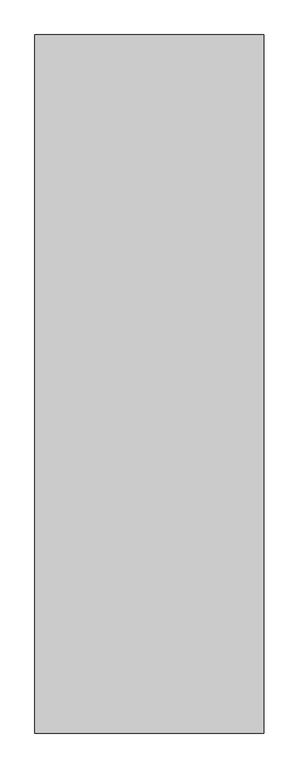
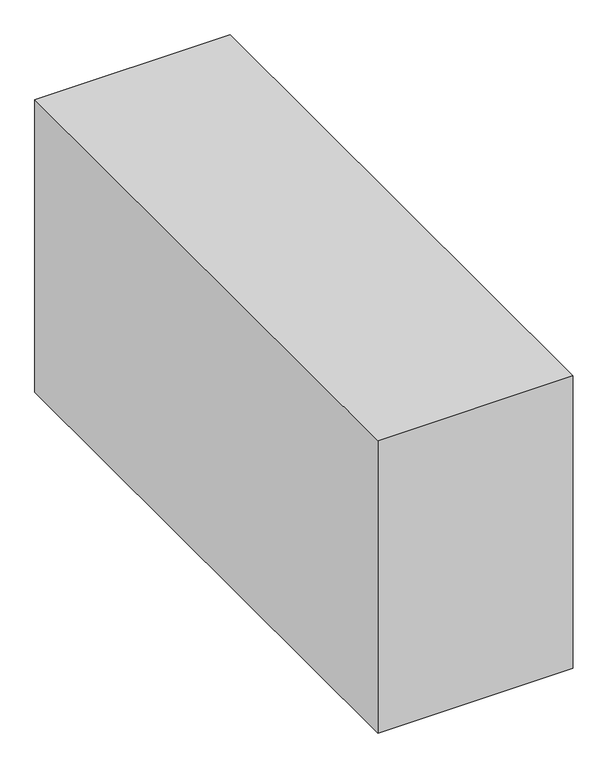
"""IFC4 building model written with IfcOpenShell, lengths in millimetres: proxy geometry."""

from ifc_helpers import new_model, si_unit, frame, origin, place, context, project, spatial, polyline, outline, extrude, source, transform, mapped, element, save


def generic_models_85065f41(model_context):
    return source(origin(), model_context, "Body", "SweptSolid", [
        extrude(outline(polyline([(1200.0, -1624.0), (200.0, -1624.0), (200.0, 1424.0), (1200.0, 1424.0), (1200.0, -1624.0)])), frame((0.0, 0.0, 400.0), z_axis=(0.0, 0.0, 1.0), x_axis=(1.0, 0.0, 0.0)), (0.0, 0.0, 1.0), 1585.0),
    ])


if __name__ == "__main__":
    model = new_model("IFC4")
    model_context = context("Model", 3, world=origin())
    ifc_project = project(units=[si_unit("LENGTHUNIT", "METRE", prefix="MILLI")], contexts=[model_context])
    site = spatial("IfcSite", under=ifc_project)
    building = spatial("IfcBuilding", under=site)
    placement = place(None, origin())
    generic_models_shape = generic_models_85065f41(model_context)
    element("IfcBuildingElementProxy", 1, Name="Generic Models", at=placement, inside=building, context=model_context, shape_type="MappedRepresentation", body=[
        mapped(generic_models_shape, transform((0.0, 0.0, 0.0), x_axis=(1.0, 0.0, 0.0), y_axis=(0.0, 1.0, 0.0), z_axis=(0.0, 0.0, 1.0))),
    ])
    save(model, "model.ifc")
